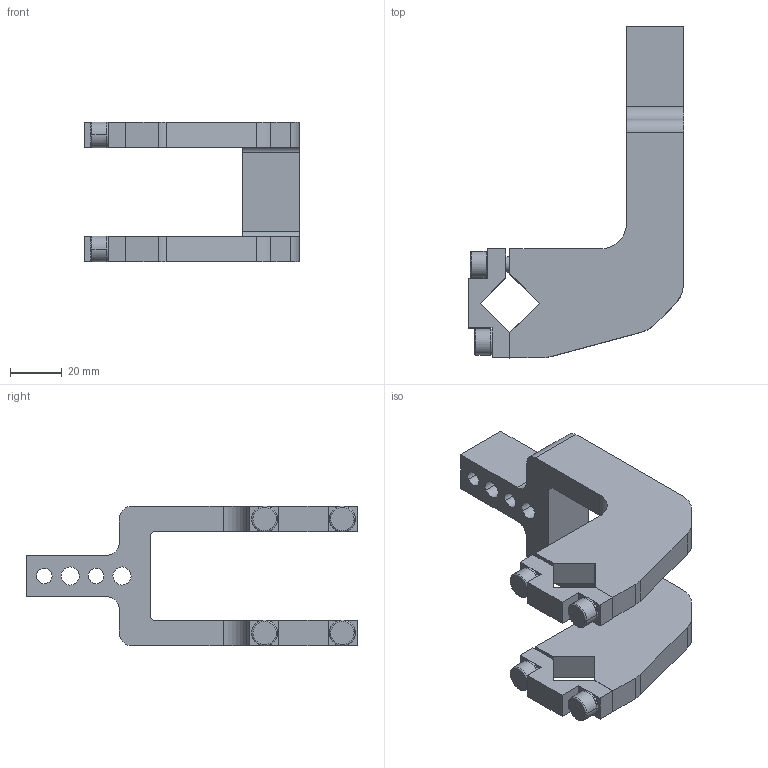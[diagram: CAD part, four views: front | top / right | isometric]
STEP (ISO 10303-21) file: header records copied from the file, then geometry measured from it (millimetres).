
FILE_DESCRIPTION(('CATIA V5 STEP Exchange'),'2;1');
FILE_NAME('E:\clampact\CLAMPACT\clampact\catalog\Clampact Arm\Arm 3D\Clampact Arm\arm_K40_45_A50_Clampact.stp','2022-12-06T07:42:15+00:00',('none'),('none'),'CATIA Version 5 Release 19 SP 6 (IN-10)','CATIA V5 STEP AP203','none');
FILE_SCHEMA(('CONFIG_CONTROL_DESIGN'));
Length unit declared in the file: millimetre
Products named in the file (1): K40_45_A50_Clampact_柯莱普
Bounding box: 83 x 128 x 54 mm (x, y, z)
Volume: 93041.1 mm3; surface area: 30122.5 mm2
Topology: 1 solids, 5 shells, 164 faces, 414 edges, 260 vertices
Faces by surface type: plane 78, cylinder 54, cone 20, torus 12
Entity records: 4706 total; most frequent: CARTESIAN_POINT 979, ORIENTED_EDGE 812, DIRECTION 627, EDGE_CURVE 406, AXIS2_PLACEMENT_3D 262, VERTEX_POINT 260, VECTOR 245, LINE 245
